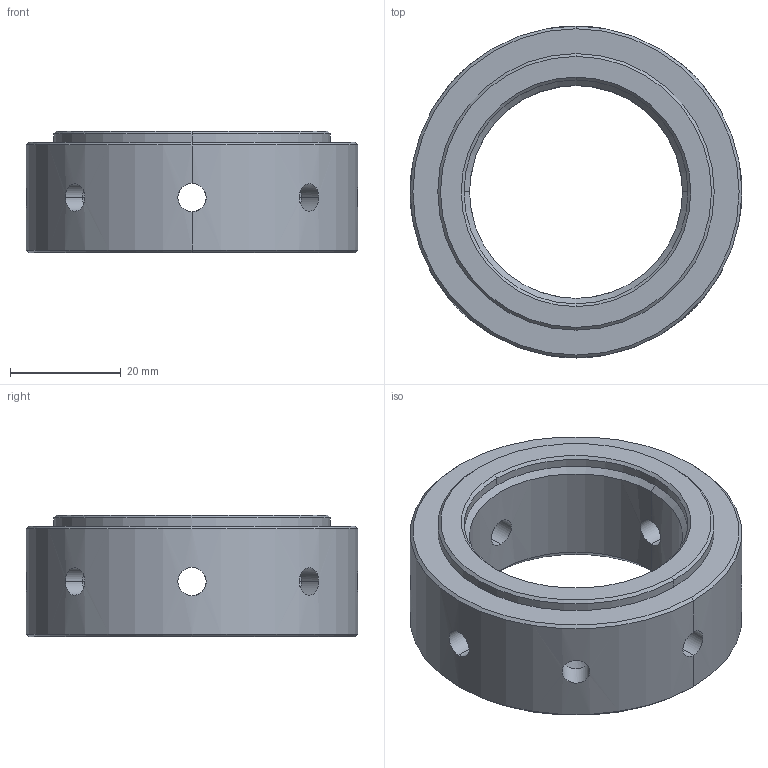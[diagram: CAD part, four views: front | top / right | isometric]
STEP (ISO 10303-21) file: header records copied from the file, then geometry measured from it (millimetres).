
FILE_DESCRIPTION (( 'STEP AP203' ), '1' );
FILE_NAME ('WBK40.STEP', '2013-01-07T05:23:24', ( '' ), ( '' ), 'SwSTEP 2.0', 'SolidWorks 2012', '' );
FILE_SCHEMA (( 'CONFIG_CONTROL_DESIGN' ));
Length unit declared in the file: millimetre
Products named in the file (1): WBK40
Bounding box: 60 x 60 x 22 mm (x, y, z)
Volume: 32764.7 mm3; surface area: 10749.1 mm2
Topology: 1 solids, 1 shells, 63 faces, 156 edges, 84 vertices
Faces by surface type: cylinder 32, cone 28, plane 3
Entity records: 2539 total; most frequent: CARTESIAN_POINT 1056, DIRECTION 296, ORIENTED_EDGE 280, EDGE_CURVE 140, AXIS2_PLACEMENT_3D 116, VERTEX_POINT 84, EDGE_LOOP 78, VECTOR 64
